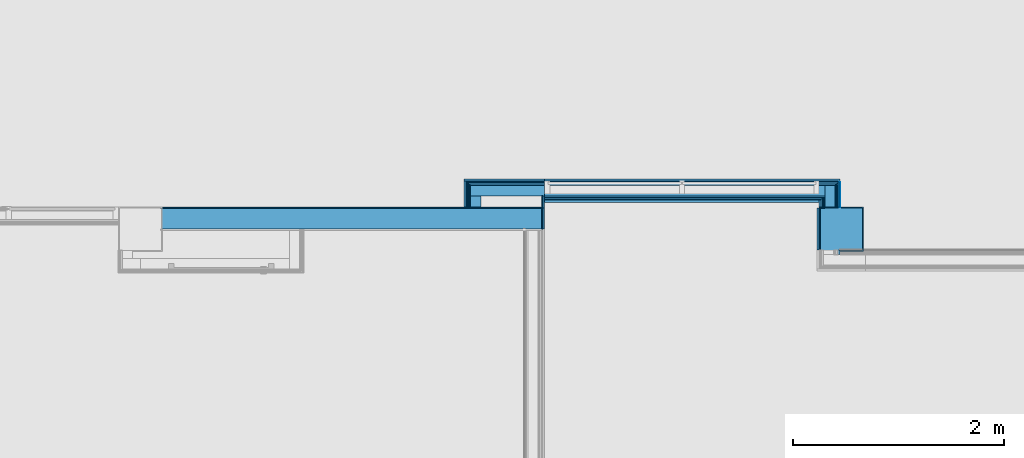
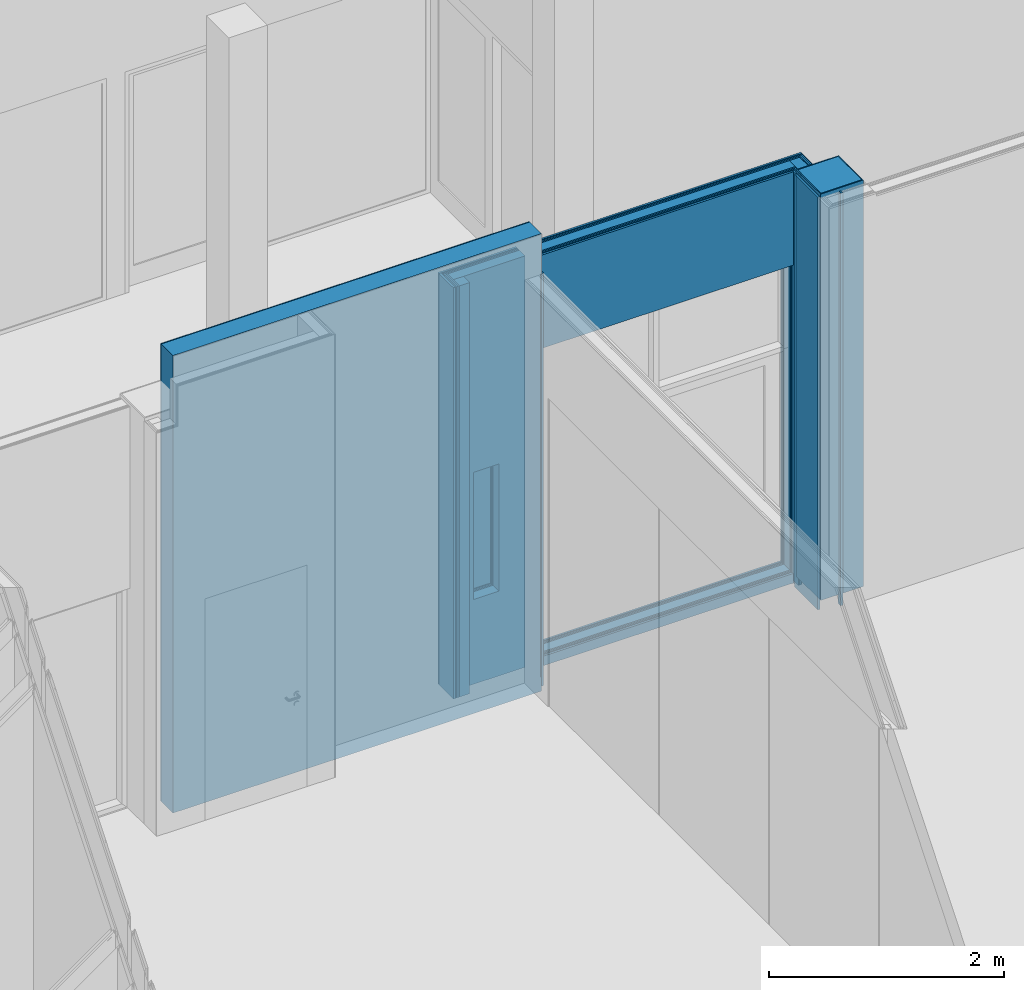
# One storey, part 211 of 260: 37 building element parts, 2 openings, 9 elements without a shape of their own.
"""IFC2X3 building model written with IfcOpenShell, lengths in millimetres."""

from ifc_helpers import new_model, entity, si_unit, converted_unit, derived_unit, money_unit, direction, frame, origin_with_axes, place, context, subcontext, project, spatial, faceted_brep, material, type_object, element, aggregate, save


model = new_model("IFC2X3")

# Units and contexts
model_context = context("Model", 3, precision=0.01, world=origin_with_axes(), true_north=direction((0.0, 1.0)))
body_context = subcontext(model_context, "Body", "Model", "MODEL_VIEW")
ifc_project = project(units=[si_unit("LENGTHUNIT", "METRE", prefix="MILLI"), si_unit("AREAUNIT", "SQUARE_METRE"), si_unit("VOLUMEUNIT", "CUBIC_METRE"), converted_unit("PLANEANGLEUNIT", "DEGREE", entity("IfcPlaneAngleMeasure", 0.0174532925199), si_unit("PLANEANGLEUNIT", "RADIAN"), dimensions=[0, 0, 0, 0, 0, 0, 0]), money_unit("EUR"), converted_unit("TIMEUNIT", "Year", entity("IfcTimeMeasure", 31556926.0), si_unit("TIMEUNIT", "SECOND"), dimensions=[0, 0, 1, 0, 0, 0, 0]), si_unit("MASSUNIT", "GRAM", prefix="KILO"), si_unit("THERMODYNAMICTEMPERATUREUNIT", "DEGREE_CELSIUS"), si_unit("LUMINOUSINTENSITYUNIT", "LUMEN"), si_unit("ENERGYUNIT", "JOULE", prefix="MEGA"), derived_unit("THERMALCONDUCTANCEUNIT", [(si_unit("POWERUNIT", "WATT"), 1), (si_unit("LENGTHUNIT", "METRE"), -1), (si_unit("THERMODYNAMICTEMPERATUREUNIT", "KELVIN"), -1)]), derived_unit("SPECIFICHEATCAPACITYUNIT", [(si_unit("ENERGYUNIT", "JOULE"), 1), (si_unit("MASSUNIT", "GRAM", prefix="KILO"), -1), (si_unit("THERMODYNAMICTEMPERATUREUNIT", "KELVIN"), -1)]), derived_unit("MASSDENSITYUNIT", [(si_unit("MASSUNIT", "GRAM", prefix="KILO"), 1), (si_unit("VOLUMEUNIT", "CUBIC_METRE"), -1)])], contexts=[model_context])

# Site, building, storey
site_placement = place(None, origin_with_axes())
site = spatial("IfcSite", under=ifc_project, at=site_placement, Name="Kolde pst 67a", CompositionType="ELEMENT")
building_placement = place(site_placement, origin_with_axes())
building = spatial("IfcBuilding", under=site, at=building_placement, Name="Riigigümnaasium", CompositionType="ELEMENT")
storey_placement = place(building_placement, origin_with_axes())
storey = spatial("IfcBuildingStorey", under=building, at=storey_placement, Name="1. korrus", CompositionType="ELEMENT", Elevation=0.0)

# Wall, building element parts
wall_type_1 = type_object("IfcWallType", Name="SS-RB-20/1_+2 krohv 55 dB 220", PredefinedType="NOTDEFINED")
wall_1_placement = place(storey_placement, frame((73759.99953, 24240.000066, -150.0), z_axis=(0.0, 0.0, 1.0), x_axis=(-1.0, 4.30399456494e-10, 0.0)))
wall_1 = element("IfcWall", 1, at=wall_1_placement, inside=storey, type_object=wall_type_1, Name="Sisesein")
ifc_material_1 = material(Name="_KANDETARIND - monteeritav raudbetoon vastavalt EK osale")
building_element_part_1_placement = place(wall_1_placement, origin_with_axes())
building_element_part_1 = element("IfcBuildingElementPart", 2, at=building_element_part_1_placement, material=ifc_material_1, Name="_KANDETARIND - monteeritav raudbetoon vastavalt EK osale", context=body_context, shape_type="Brep", body=[
    faceted_brep([(3620.00024183, -199.999998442, 4750.0), (3620.00024174, 1.55804613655e-06, 4750.0), (0.0, 0.0, 4750.0), (8.607514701e-08, -200.0, 4750.0), (3620.00024183, -199.999998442, 0.0), (3620.00024174, 1.55804613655e-06, 0.0), (0.0, 0.0, 0.0), (8.607514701e-08, -200.0, 0.0)], [[[0, 1, 2, 3]], [[0, 4, 5, 1]], [[1, 5, 6, 2]], [[3, 2, 6, 7]], [[4, 0, 3, 7]], [[5, 4, 7, 6]]]),
])
ifc_material_2 = material(Name="_VIIMISTLUSKIHT - viimistlus vastavalt SA osale")
building_element_part_2_placement = place(wall_1_placement, origin_with_axes())
building_element_part_2 = element("IfcBuildingElementPart", 3, at=building_element_part_2_placement, material=ifc_material_2, Name="_VIIMISTLUSKIHT - viimistlus vastavalt SA osale", context=body_context, shape_type="Brep", body=[
    faceted_brep([(3620.00024183, -209.999998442, 4750.0), (3620.00024183, -199.999998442, 4750.0), (8.607514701e-08, -200.0, 4750.0), (9.03810359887e-08, -210.0, 4750.0), (3620.00024183, -209.999998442, 0.0), (3620.00024183, -199.999998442, 0.0), (8.607514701e-08, -200.0, 0.0), (9.03810359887e-08, -210.0, 0.0)], [[[0, 1, 2, 3]], [[0, 4, 5, 1]], [[1, 5, 6, 2]], [[3, 2, 6, 7]], [[4, 0, 3, 7]], [[5, 4, 7, 6]]]),
])
aggregate(wall_1, [building_element_part_1, building_element_part_2])

# Column, building element parts
column_type = type_object("IfcColumnType", Name="_KANDETARIND - raudbetoon C25/30 vastavalt EK osale 420 x 420", PredefinedType="COLUMN")
column_placement = place(storey_placement, frame((76590.0020631, 24239.9999727, 0.0), z_axis=(0.0, 0.0, 1.0), x_axis=(1.0, 0.0, 0.0)))
column = element("IfcColumn", 4, at=column_placement, inside=storey, type_object=column_type, Name="POST", ObjectType="COLUMN")
ifc_material_3 = material(Name="_VIIMISTLUSKIHT - puit")
building_element_part_3_placement = place(column_placement, origin_with_axes())
building_element_part_3 = element("IfcBuildingElementPart", 5, at=building_element_part_3_placement, material=ifc_material_3, Name="_VIIMISTLUSKIHT - puit", context=body_context, shape_type="Brep", body=[
    faceted_brep([(-210.0, 210.0, 0.0), (-210.0, -210.0, 0.0), (-210.0, -210.0, 4220.0), (-210.0, 210.0, 4220.0), (210.0, 210.0, 0.0), (210.0, -210.0, 0.0), (-199.999997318, -199.999997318, 0.0), (199.999997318, -199.999997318, 0.0), (199.999997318, 199.999997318, 0.0), (-199.999997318, 199.999997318, 0.0), (210.0, -210.0, 4220.0), (210.0, 210.0, 4220.0), (-199.999997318, -199.999997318, 4220.0), (-199.999997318, 199.999997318, 4220.0), (199.999997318, 199.999997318, 4220.0), (199.999997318, -199.999997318, 4220.0)], [[[0, 1, 2, 3]], [[0, 4, 5, 1], [6, 7, 8, 9]], [[1, 5, 10, 2]], [[3, 2, 10, 11], [12, 13, 14, 15]], [[4, 0, 3, 11]], [[5, 4, 11, 10]], [[7, 6, 12, 15]], [[8, 7, 15, 14]], [[9, 8, 14, 13]], [[6, 9, 13, 12]]]),
])
ifc_material_4 = material(Name="_KANDETARIND - raudbetoon C25/30 vastavalt EK osale")
building_element_part_4_placement = place(column_placement, origin_with_axes())
building_element_part_4 = element("IfcBuildingElementPart", 6, at=building_element_part_4_placement, material=ifc_material_4, Name="_KANDETARIND - raudbetoon C25/30 vastavalt EK osale", context=body_context, shape_type="Brep", body=[
    faceted_brep([(-200.0, -200.0, 0.0), (200.0, -200.0, 0.0), (200.0, -200.0, 4220.0), (-200.0, -200.0, 4220.0), (-200.0, 200.0, 0.0), (200.0, 200.0, 0.0), (200.0, 200.0, 4220.0), (-200.0, 200.0, 4220.0)], [[[0, 1, 2, 3]], [[0, 4, 5, 1]], [[1, 5, 6, 2]], [[3, 2, 6, 7]], [[4, 0, 3, 7]], [[5, 4, 7, 6]]]),
])
aggregate(column, [building_element_part_3, building_element_part_4])

# Wall, opening, building element parts
wall_type_2 = type_object("IfcWallType", Name="SS-MK-10/4_šahti sein+dold  160", PredefinedType="NOTDEFINED")
wall_2_placement = place(storey_placement, frame((73015.537689, 24714.9999722, -150.0), z_axis=(0.0, 0.0, 1.0), x_axis=(1.0, 0.0, 0.0)))
wall_2 = element("IfcWall", 7, at=wall_2_placement, inside=storey, type_object=wall_type_2, Name="Sisesein")
opening_1_placement = place(wall_2_placement, frame((-73015.537689, -24714.9999722, 150.0), z_axis=(0.0, 0.0, 1.0), x_axis=(1.0, 0.0, 0.0)))
element("IfcOpeningElement", 8, at=opening_1_placement, cuts=wall_2, Name="Tulekustuti nišš vastavalt SA osale", ObjectType="OPENING", context=body_context, shape_type="Brep", body=[
    faceted_brep([(73272.7689276, 24494.9999676, 780.0), (73272.7689276, 24494.9999676, 2100.0), (73272.7689276, 24694.9999676, 2100.0), (73272.7689276, 24694.9999676, 780.0), (73522.7689276, 24494.9999676, 780.0), (73522.7689276, 24494.9999676, 2100.0), (73522.7689276, 24694.9999676, 2100.0), (73522.7689276, 24694.9999676, 780.0)], [[[0, 1, 2, 3]], [[0, 4, 5, 1]], [[1, 5, 6, 2]], [[3, 2, 6, 7]], [[4, 0, 3, 7]], [[5, 4, 7, 6]]]),
])
ifc_material_5 = material(Name="_VIIMISTLUSKIHT - Dold plaat vastavalt SA osale")
building_element_part_5_placement = place(wall_2_placement, origin_with_axes())
building_element_part_5 = element("IfcBuildingElementPart", 9, at=building_element_part_5_placement, material=ifc_material_5, Name="_VIIMISTLUSKIHT - Dold plaat vastavalt SA osale", context=body_context, shape_type="Brep", body=[
    faceted_brep([(764.461886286, -20.0, 49.9), (764.461886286, 0.0, 49.9), (764.461886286, 0.0, 4320.0), (764.461886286, -20.0, 4320.0), (0.0, 0.0, 49.9), (-1.00332329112e-05, -20.0, 49.9), (0.0, 0.0, 4320.0), (-1.00332329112e-05, -20.0, 4320.0)], [[[0, 1, 2, 3]], [[4, 1, 0, 5]], [[1, 4, 6, 2]], [[3, 2, 6, 7]], [[5, 0, 3, 7]], [[4, 5, 7, 6]]]),
])
ifc_material_6 = material(Name="_KARKASS - eriprofiilkinnitus vastavalt sisemisele plaatviimistlusele")
building_element_part_6_placement = place(wall_2_placement, origin_with_axes())
building_element_part_6 = element("IfcBuildingElementPart", 10, at=building_element_part_6_placement, material=ifc_material_6, Name="_KARKASS - eriprofiilkinnitus vastavalt sisemisele plaatviimistlusele", context=body_context, shape_type="Brep", body=[
    faceted_brep([(764.461886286, -30.0, 49.9), (764.461886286, -20.0, 49.9), (764.461886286, -20.0, 4320.0), (764.461886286, -30.0, 4320.0), (19.9999899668, -20.0, 49.9), (19.9999849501, -30.0, 49.9), (19.9999899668, -20.0, 4320.0), (257.231238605, -20.0000046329, 2250.0), (257.231238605, -20.0000046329, 930.0), (507.231238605, -20.0000046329, 930.0), (507.231238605, -20.0000046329, 2250.0), (19.9999849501, -30.0, 4320.0), (507.231238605, -30.0, 930.0), (257.231238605, -30.0, 930.0), (257.231238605, -30.0, 2250.0), (507.231238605, -30.0, 2250.0)], [[[0, 1, 2, 3]], [[4, 1, 0, 5]], [[1, 4, 6, 2], [7, 8, 9, 10]], [[3, 2, 6, 11]], [[5, 0, 3, 11], [12, 13, 14, 15]], [[4, 5, 11, 6]], [[13, 8, 7, 14]], [[12, 9, 8, 13]], [[15, 10, 9, 12]], [[14, 7, 10, 15]]]),
])
ifc_material_7 = material(Name="_PLAATMATERJAL - tuletõkkekipsplaat, Knauf Red GKF või samaväärne")
building_element_part_7_placement = place(wall_2_placement, origin_with_axes())
building_element_part_7 = element("IfcBuildingElementPart", 11, at=building_element_part_7_placement, material=ifc_material_7, Name="_PLAATMATERJAL - tuletõkkekipsplaat, Knauf Red GKF või samaväärne", context=body_context, shape_type="Brep", body=[
    faceted_brep([(764.461886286, -45.0, 49.9), (764.461886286, -30.0, 49.9), (764.461886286, -30.0, 4320.0), (764.461886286, -45.0, 4320.0), (29.9999849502, -30.0, 49.9), (29.9999774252, -45.0, 49.9), (29.9999849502, -30.0, 4320.0), (257.231238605, -30.0, 2250.0), (257.231238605, -30.0, 930.0), (507.231238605, -30.0, 930.0), (507.231238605, -30.0, 2250.0), (29.9999774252, -45.0, 4320.0), (507.231238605, -45.0, 930.0), (257.231238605, -45.0, 930.0), (257.231238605, -45.0, 2250.0), (507.231238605, -45.0, 2250.0)], [[[0, 1, 2, 3]], [[4, 1, 0, 5]], [[1, 4, 6, 2], [7, 8, 9, 10]], [[3, 2, 6, 11]], [[5, 0, 3, 11], [12, 13, 14, 15]], [[4, 5, 11, 6]], [[13, 8, 7, 14]], [[12, 9, 8, 13]], [[15, 10, 9, 12]], [[14, 7, 10, 15]]]),
])
building_element_part_8_placement = place(wall_2_placement, origin_with_axes())
building_element_part_8 = element("IfcBuildingElementPart", 12, at=building_element_part_8_placement, material=ifc_material_7, Name="_PLAATMATERJAL - tuletõkkekipsplaat, Knauf Red GKF või samaväärne", context=body_context, shape_type="Brep", body=[
    faceted_brep([(764.461886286, -60.0, 49.9), (764.461886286, -45.0, 49.9), (764.461886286, -45.0, 4320.0), (764.461886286, -60.0, 4320.0), (44.9999774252, -45.0, 49.9), (44.9999699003, -60.0, 49.9), (44.9999774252, -45.0, 4320.0), (257.231238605, -45.0, 2250.0), (257.231238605, -45.0, 930.0), (507.231238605, -45.0, 930.0), (507.231238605, -45.0, 2250.0), (44.9999699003, -60.0, 4320.0), (507.231238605, -60.0, 930.0), (257.231238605, -60.0, 930.0), (257.231238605, -60.0, 2250.0), (507.231238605, -60.0, 2250.0)], [[[0, 1, 2, 3]], [[4, 1, 0, 5]], [[1, 4, 6, 2], [7, 8, 9, 10]], [[3, 2, 6, 11]], [[5, 0, 3, 11], [12, 13, 14, 15]], [[4, 5, 11, 6]], [[13, 8, 7, 14]], [[12, 9, 8, 13]], [[15, 10, 9, 12]], [[14, 7, 10, 15]]]),
])
ifc_material_8 = material(Name="_KARKASS - metallkarkass CW 100/50/06 ja UW 100/40/06, samm 600, vahel mineraalvill, helineeldetegur αw = 1.0,  ISOVER ACOUSTIC 100mm või samaväärne")
building_element_part_9_placement = place(wall_2_placement, origin_with_axes())
building_element_part_9 = element("IfcBuildingElementPart", 13, at=building_element_part_9_placement, material=ifc_material_8, Name="_KARKASS - metallkarkass CW 100/50/06 ja UW 100/40/06, samm 600, vahel mineraalvill, helineeldetegur αw = 1.0,  ISOVER ACOUSTIC 100mm või samaväärne", context=body_context, shape_type="Brep", body=[
    faceted_brep([(764.461886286, -160.0, 49.9), (764.461886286, -60.0, 49.9), (764.461886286, -60.0, 4320.0), (764.461886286, -160.0, 4320.0), (59.9999699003, -60.0, 49.9), (59.9999197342, -160.0, 49.9), (59.9999699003, -60.0, 4320.0), (257.231238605, -60.0, 2250.0), (257.231238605, -60.0, 930.0), (507.231238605, -60.0, 930.0), (507.231238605, -60.0, 2250.0), (59.9999197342, -160.0, 4320.0), (507.231238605, -160.0, 930.0), (257.231238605, -160.0, 930.0), (257.231238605, -160.0, 2250.0), (507.231238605, -160.0, 2250.0)], [[[0, 1, 2, 3]], [[4, 1, 0, 5]], [[1, 4, 6, 2], [7, 8, 9, 10]], [[3, 2, 6, 11]], [[5, 0, 3, 11], [12, 13, 14, 15]], [[4, 5, 11, 6]], [[13, 8, 7, 14]], [[12, 9, 8, 13]], [[15, 10, 9, 12]], [[14, 7, 10, 15]]]),
])
aggregate(wall_2, [building_element_part_5, building_element_part_6, building_element_part_7, building_element_part_8, building_element_part_9])

# Wall, building element parts
wall_type_3 = type_object("IfcWallType", Name="SS-PK-10/8_vill100+dold+vineer-värv 200", PredefinedType="NOTDEFINED")
wall_3_placement = place(storey_placement, frame((76580.0026709, 24494.9999722, -150.0), z_axis=(0.0, 0.0, 1.0), x_axis=(0.0, -1.0, 0.0)))
wall_3 = element("IfcWall", 14, at=wall_3_placement, inside=storey, type_object=wall_type_3, Name="Sisesein")
building_element_part_10_placement = place(wall_3_placement, origin_with_axes())
building_element_part_10 = element("IfcBuildingElementPart", 15, at=building_element_part_10_placement, material=ifc_material_2, Name="_VIIMISTLUSKIHT - viimistlus vastavalt SA osale", context=body_context, shape_type="Brep", body=[
    faceted_brep([(44.9999995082, -5.0, 4320.0), (44.9999995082, 0.0, 4320.0), (-190.0, 0.0, 4320.0), (-190.0, -5.0, 4320.0), (44.9999995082, 0.0, 150.0), (44.9999995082, -5.0, 150.0), (-190.0, 0.0, 150.0), (-190.0, -5.0, 150.0)], [[[0, 1, 2, 3]], [[4, 1, 0, 5]], [[1, 4, 6, 2]], [[2, 6, 7, 3]], [[5, 0, 3, 7]], [[4, 5, 7, 6]]]),
])
building_element_part_11_placement = place(wall_3_placement, origin_with_axes())
building_element_part_11 = element("IfcBuildingElementPart", 16, at=building_element_part_11_placement, material=ifc_material_7, Name="_PLAATMATERJAL - tuletõkkekipsplaat, Knauf Red GKF või samaväärne", context=body_context, shape_type="Brep", body=[
    faceted_brep([(44.9999995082, -20.0, 4320.0), (44.9999995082, -5.0, 4320.0), (-190.0, -5.0, 4320.0), (-190.0, -20.0, 4320.0), (44.9999995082, -5.0, 150.0), (44.9999995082, -20.0, 150.0), (-190.0, -5.0, 150.0), (-190.0, -20.0, 150.0)], [[[0, 1, 2, 3]], [[4, 1, 0, 5]], [[1, 4, 6, 2]], [[2, 6, 7, 3]], [[5, 0, 3, 7]], [[4, 5, 7, 6]]]),
])
building_element_part_12_placement = place(wall_3_placement, origin_with_axes())
building_element_part_12 = element("IfcBuildingElementPart", 17, at=building_element_part_12_placement, material=ifc_material_7, Name="_PLAATMATERJAL - tuletõkkekipsplaat, Knauf Red GKF või samaväärne", context=body_context, shape_type="Brep", body=[
    faceted_brep([(44.9999995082, -35.0, 4320.0), (44.9999995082, -20.0, 4320.0), (-175.0, -20.0, 4320.0), (-175.0, -35.0, 4320.0), (44.9999995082, -20.0, 150.0), (44.9999995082, -35.0, 150.0), (-175.0, -20.0, 150.0), (-175.0, -35.0, 150.0)], [[[0, 1, 2, 3]], [[4, 1, 0, 5]], [[1, 4, 6, 2]], [[2, 6, 7, 3]], [[5, 0, 3, 7]], [[4, 5, 7, 6]]]),
])
ifc_material_9 = material(Name="_PLAATMATERJAL - OSB3 plaat")
building_element_part_13_placement = place(wall_3_placement, origin_with_axes())
building_element_part_13 = element("IfcBuildingElementPart", 18, at=building_element_part_13_placement, material=ifc_material_9, Name="_PLAATMATERJAL - OSB3 plaat", context=body_context, shape_type="Brep", body=[
    faceted_brep([(44.9999995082, -45.0, 4320.0), (44.9999995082, -35.0, 4320.0), (-160.0, -35.0, 4320.0), (-160.0, -45.0, 4320.0), (44.9999995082, -35.0, 150.0), (44.9999995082, -45.0, 150.0), (-160.0, -35.0, 150.0), (-160.0, -45.0, 150.0)], [[[0, 1, 2, 3]], [[4, 1, 0, 5]], [[1, 4, 6, 2]], [[2, 6, 7, 3]], [[5, 0, 3, 7]], [[4, 5, 7, 6]]]),
])
ifc_material_10 = material(Name="_KARKASS - puitpruss 100x50mm vertikaalne, samm 600mm, vahel mineraalvill, helineeldetegur αw = 1.0, ISOVER ACOUSTIC 100mm või samaväärne")
building_element_part_14_placement = place(wall_3_placement, origin_with_axes())
building_element_part_14 = element("IfcBuildingElementPart", 19, at=building_element_part_14_placement, material=ifc_material_10, Name="_KARKASS - puitpruss 100x50mm vertikaalne, samm 600mm, vahel mineraalvill, helineeldetegur αw = 1.0, ISOVER ACOUSTIC 100mm või samaväärne", context=body_context, shape_type="Brep", body=[
    faceted_brep([(44.9999995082, -145.0, 4320.0), (44.9999995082, -45.0, 4320.0), (-160.0, -45.0, 4320.0), (-160.0, -145.0, 4320.0), (44.9999995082, -45.0, 150.0), (44.9999995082, -145.0, 150.0), (55.0000021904, -45.0, 150.0), (54.9999995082, -45.0, 49.9), (-160.0, -45.0, 49.9), (-160.0, -145.0, 49.9), (54.9999995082, -145.0, 49.9), (55.0000021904, -145.0, 150.0)], [[[0, 1, 2, 3]], [[4, 1, 0, 5]], [[4, 6, 7, 8, 2, 1]], [[2, 8, 9, 3]], [[5, 0, 3, 9, 10, 11]], [[6, 4, 5, 11]], [[6, 11, 10, 7]], [[10, 9, 8, 7]]]),
])
building_element_part_15_placement = place(wall_3_placement, origin_with_axes())
building_element_part_15 = element("IfcBuildingElementPart", 20, at=building_element_part_15_placement, material=ifc_material_9, Name="_PLAATMATERJAL - OSB3 plaat", context=body_context, shape_type="Brep", body=[
    faceted_brep([(44.9999995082, -155.0, 4320.0), (44.9999995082, -145.0, 4320.0), (-45.0, -145.0, 4320.0), (-45.0, -155.0, 4320.0), (44.9999995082, -145.0, 150.0), (44.9999995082, -155.0, 150.0), (55.0000021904, -145.0, 150.0), (54.9999995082, -145.0, 49.9), (-45.0, -145.0, 49.9), (-45.0, -155.0, 49.9), (54.9999995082, -155.0, 49.9), (55.0000021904, -155.0, 150.0)], [[[0, 1, 2, 3]], [[4, 1, 0, 5]], [[4, 6, 7, 8, 2, 1]], [[2, 8, 9, 3]], [[5, 0, 3, 9, 10, 11]], [[6, 4, 5, 11]], [[6, 11, 10, 7]], [[10, 9, 8, 7]]]),
])
building_element_part_16_placement = place(wall_3_placement, origin_with_axes())
building_element_part_16 = element("IfcBuildingElementPart", 21, at=building_element_part_16_placement, material=ifc_material_7, Name="_PLAATMATERJAL - tuletõkkekipsplaat, Knauf Red GKF või samaväärne", context=body_context, shape_type="Brep", body=[
    faceted_brep([(44.9999995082, -170.0, 4320.0), (44.9999995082, -155.0, 4320.0), (-45.0, -155.0, 4320.0), (-45.0, -170.0, 4320.0), (44.9999995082, -155.0, 150.0), (44.9999995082, -170.0, 150.0), (55.0000021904, -155.0, 150.0), (54.9999995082, -155.0, 49.9), (-45.0, -155.0, 49.9), (-45.0, -170.0, 49.9), (54.9999995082, -170.0, 49.9), (55.0000021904, -170.0, 150.0)], [[[0, 1, 2, 3]], [[4, 1, 0, 5]], [[4, 6, 7, 8, 2, 1]], [[2, 8, 9, 3]], [[5, 0, 3, 9, 10, 11]], [[6, 4, 5, 11]], [[6, 11, 10, 7]], [[10, 9, 8, 7]]]),
])
building_element_part_17_placement = place(wall_3_placement, origin_with_axes())
building_element_part_17 = element("IfcBuildingElementPart", 22, at=building_element_part_17_placement, material=ifc_material_6, Name="_KARKASS - eriprofiilkinnitus vastavalt sisemisele plaatviimistlusele", context=body_context, shape_type="Brep", body=[
    faceted_brep([(44.9999995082, -180.0, 4320.0), (44.9999995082, -170.0, 4320.0), (-30.0, -170.0, 4320.0), (-30.0, -180.0, 4320.0), (44.9999995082, -170.0, 150.0), (44.9999995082, -180.0, 150.0), (55.0000021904, -170.0, 150.0), (54.9999995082, -170.0, 49.9), (-30.0, -170.0, 49.9), (-30.0, -180.0, 49.9), (54.9999995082, -180.0, 49.9), (55.0000021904, -180.0, 150.0)], [[[0, 1, 2, 3]], [[4, 1, 0, 5]], [[4, 6, 7, 8, 2, 1]], [[2, 8, 9, 3]], [[5, 0, 3, 9, 10, 11]], [[6, 4, 5, 11]], [[6, 11, 10, 7]], [[10, 9, 8, 7]]]),
])
building_element_part_18_placement = place(wall_3_placement, origin_with_axes())
building_element_part_18 = element("IfcBuildingElementPart", 23, at=building_element_part_18_placement, material=ifc_material_5, Name="_VIIMISTLUSKIHT - Dold plaat vastavalt SA osale", context=body_context, shape_type="Brep", body=[
    faceted_brep([(44.9999995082, -200.000607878, 4320.0), (44.9999995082, -180.0, 4320.0), (-20.0, -180.0, 4320.0), (-20.0, -200.0, 4320.0), (44.9999995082, -180.0, 150.0), (44.9999995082, -200.000607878, 150.0), (55.0000021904, -180.0, 150.0), (54.9999995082, -180.0, 49.9), (-20.0, -180.0, 49.9), (-20.0, -200.0, 49.9), (54.9999995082, -200.0, 49.9), (54.9999995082, -200.000607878, 150.0), (55.0000021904, -190.000605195, 150.0)], [[[0, 1, 2, 3]], [[4, 1, 0, 5]], [[4, 6, 7, 8, 2, 1]], [[2, 8, 9, 3]], [[5, 0, 3, 9, 10, 11]], [[6, 4, 5, 11, 12]], [[12, 11, 10, 7, 6]], [[10, 9, 8, 7]]]),
])
aggregate(wall_3, [building_element_part_10, building_element_part_11, building_element_part_12, building_element_part_13, building_element_part_14, building_element_part_15, building_element_part_16, building_element_part_17, building_element_part_18])

wall_type_4 = type_object("IfcWallType", Name="SS-MK-1/1_1x dold pinnakiht 30", PredefinedType="NOTDEFINED")
wall_4_placement = place(storey_placement, frame((76390.0020631, 24439.9999727, -150.0), z_axis=(0.0, 0.0, 1.0), x_axis=(0.0, -1.0, 0.0)))
wall_4 = element("IfcWall", 24, at=wall_4_placement, inside=storey, type_object=wall_type_4, Name="Sisesein")
building_element_part_19_placement = place(wall_4_placement, origin_with_axes())
building_element_part_19 = element("IfcBuildingElementPart", 25, at=building_element_part_19_placement, material=ifc_material_6, Name="_KARKASS - eriprofiilkinnitus vastavalt sisemisele plaatviimistlusele", context=body_context, shape_type="Brep", body=[
    faceted_brep([(394.901860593, 0.0, 150.0), (-7.10037184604e-06, 0.0, 150.0), (-0.00020520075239, 0.0, 4335.0), (394.901860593, 0.0, 4335.0), (-7.10037184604e-06, -10.0, 150.0), (394.901860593, -10.0, 150.0), (-0.00020520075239, -10.0, 4335.0), (394.901860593, -10.0, 4335.0)], [[[0, 1, 2, 3]], [[4, 1, 0, 5]], [[1, 4, 6, 2]], [[3, 2, 6, 7]], [[5, 0, 3, 7]], [[4, 5, 7, 6]]]),
])
building_element_part_20_placement = place(wall_4_placement, origin_with_axes())
building_element_part_20 = element("IfcBuildingElementPart", 26, at=building_element_part_20_placement, material=ifc_material_5, Name="_VIIMISTLUSKIHT - Dold plaat vastavalt SA osale", context=body_context, shape_type="Brep", body=[
    faceted_brep([(394.901860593, -10.0, 49.9), (-2.36205721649e-06, -10.0, 49.9), (-0.00020520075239, -10.0, 4335.0), (394.901860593, -10.0, 4335.0), (-2.36205721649e-06, -30.0, 49.9), (394.901860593, -30.0, 49.9), (-0.00020520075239, -30.0, 4335.0), (394.901860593, -30.0, 4335.0)], [[[0, 1, 2, 3]], [[4, 1, 0, 5]], [[1, 4, 6, 2]], [[3, 2, 6, 7]], [[5, 0, 3, 7]], [[4, 5, 7, 6]]]),
])
aggregate(wall_4, [building_element_part_19, building_element_part_20])

wall_5_placement = place(storey_placement, frame((73749.9995791, 24555.0981117, -150.0), z_axis=(0.0, 0.0, 1.0), x_axis=(-1.55804791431e-07, -1.0, 0.0)))
wall_5 = element("IfcWall", 27, at=wall_5_placement, inside=storey, type_object=wall_type_4, Name="Sisesein")
building_element_part_21_placement = place(wall_5_placement, origin_with_axes())
building_element_part_21 = element("IfcBuildingElementPart", 28, at=building_element_part_21_placement, material=ifc_material_5, Name="_VIIMISTLUSKIHT - Dold plaat vastavalt SA osale", context=body_context, shape_type="Brep", body=[
    faceted_brep([(315.098044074, 30.0, 49.9), (0.0, 30.0, 49.9), (0.0, 30.0, 4320.0), (115.098134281, 30.0, 4320.0), (115.09792908, 30.0, 4335.0), (315.098044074, 30.0, 4335.0), (0.0, 10.0, 49.9), (315.098044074, 10.0, 49.9), (0.0, 10.0, 4320.0), (115.098137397, 10.0, 4320.0), (115.097932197, 9.99999999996, 4335.0), (315.098044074, 10.0, 4335.0)], [[[0, 1, 2, 3, 4, 5]], [[6, 1, 0, 7]], [[1, 6, 8, 2]], [[3, 2, 8, 9]], [[10, 4, 3, 9]], [[5, 4, 10, 11]], [[7, 0, 5, 11]], [[6, 7, 11, 10, 9, 8]]]),
])
building_element_part_22_placement = place(wall_5_placement, origin_with_axes())
building_element_part_22 = element("IfcBuildingElementPart", 29, at=building_element_part_22_placement, material=ifc_material_6, Name="_KARKASS - eriprofiilkinnitus vastavalt sisemisele plaatviimistlusele", context=body_context, shape_type="Brep", body=[
    faceted_brep([(315.098044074, 10.0, 150.0), (0.0, 10.0, 150.0), (0.0, 10.0, 4320.0), (115.098137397, 10.0, 4320.0), (115.097932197, 9.99999999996, 4335.0), (315.098044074, 10.0, 4335.0), (0.0, 0.0, 150.0), (315.098044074, 0.0, 150.0), (0.0, 0.0, 4320.0), (115.098138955, 0.0, 4320.0), (115.097933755, 0.0, 4335.0), (315.098044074, 0.0, 4335.0)], [[[0, 1, 2, 3, 4, 5]], [[6, 1, 0, 7]], [[1, 6, 8, 2]], [[3, 2, 8, 9]], [[10, 4, 3, 9]], [[5, 4, 10, 11]], [[7, 0, 5, 11]], [[6, 7, 11, 10, 9, 8]]]),
])
aggregate(wall_5, [building_element_part_21, building_element_part_22])

wall_6_placement = place(storey_placement, frame((73015.537689, 24714.9999722, -150.0), z_axis=(0.0, 0.0, 1.0), x_axis=(-5.01661475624e-07, -1.0, 0.0)))
wall_6 = element("IfcWall", 30, at=wall_6_placement, inside=storey, type_object=wall_type_2, Name="Sisesein")
building_element_part_23_placement = place(wall_6_placement, origin_with_axes())
building_element_part_23 = element("IfcBuildingElementPart", 31, at=building_element_part_23_placement, material=ifc_material_8, Name="_KARKASS - metallkarkass CW 100/50/06 ja UW 100/40/06, samm 600, vahel mineraalvill, helineeldetegur αw = 1.0,  ISOVER ACOUSTIC 100mm või samaväärne", context=body_context, shape_type="Brep", body=[
    faceted_brep([(264.999820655, 160.0, 49.9), (159.999919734, 160.0, 49.9), (159.999919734, 160.0, 4320.0), (264.999820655, 160.0, 4320.0), (159.9999699, 60.0, 49.9), (264.999820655, 60.0, 49.9), (159.9999699, 60.0, 4320.0), (264.999820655, 60.0, 4320.0)], [[[0, 1, 2, 3]], [[4, 1, 0, 5]], [[1, 4, 6, 2]], [[3, 2, 6, 7]], [[5, 0, 3, 7]], [[4, 5, 7, 6]]]),
])
building_element_part_24_placement = place(wall_6_placement, origin_with_axes())
building_element_part_24 = element("IfcBuildingElementPart", 32, at=building_element_part_24_placement, material=ifc_material_7, Name="_PLAATMATERJAL - tuletõkkekipsplaat, Knauf Red GKF või samaväärne", context=body_context, shape_type="Brep", body=[
    faceted_brep([(264.999820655, 60.0, 49.9), (59.9999699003, 60.0, 49.9), (59.9999699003, 60.0, 4320.0), (264.999820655, 60.0, 4320.0), (59.9999774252, 45.0, 49.9), (264.999820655, 45.0, 49.9), (59.9999774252, 45.0, 4320.0), (264.999820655, 45.0, 4320.0)], [[[0, 1, 2, 3]], [[4, 1, 0, 5]], [[1, 4, 6, 2]], [[3, 2, 6, 7]], [[5, 0, 3, 7]], [[4, 5, 7, 6]]]),
])
building_element_part_25_placement = place(wall_6_placement, origin_with_axes())
building_element_part_25 = element("IfcBuildingElementPart", 33, at=building_element_part_25_placement, material=ifc_material_7, Name="_PLAATMATERJAL - tuletõkkekipsplaat, Knauf Red GKF või samaväärne", context=body_context, shape_type="Brep", body=[
    faceted_brep([(264.999820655, 45.0, 49.9), (44.9999774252, 45.0, 49.9), (44.9999774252, 45.0, 4320.0), (264.999820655, 45.0, 4320.0), (44.9999849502, 30.0, 49.9), (264.999820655, 30.0, 49.9), (44.9999849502, 30.0, 4320.0), (264.999820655, 30.0, 4320.0)], [[[0, 1, 2, 3]], [[4, 1, 0, 5]], [[1, 4, 6, 2]], [[3, 2, 6, 7]], [[5, 0, 3, 7]], [[4, 5, 7, 6]]]),
])
building_element_part_26_placement = place(wall_6_placement, origin_with_axes())
building_element_part_26 = element("IfcBuildingElementPart", 34, at=building_element_part_26_placement, material=ifc_material_6, Name="_KARKASS - eriprofiilkinnitus vastavalt sisemisele plaatviimistlusele", context=body_context, shape_type="Brep", body=[
    faceted_brep([(264.999820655, 30.0, 49.9), (29.9999849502, 30.0, 49.9), (29.9999849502, 30.0, 4320.0), (264.999820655, 30.0, 4320.0), (29.9999899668, 20.0, 49.9), (264.999820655, 20.0, 49.9), (29.9999899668, 20.0, 4320.0), (264.999820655, 20.0, 4320.0)], [[[0, 1, 2, 3]], [[4, 1, 0, 5]], [[1, 4, 6, 2]], [[3, 2, 6, 7]], [[5, 0, 3, 7]], [[4, 5, 7, 6]]]),
])
building_element_part_27_placement = place(wall_6_placement, origin_with_axes())
building_element_part_27 = element("IfcBuildingElementPart", 35, at=building_element_part_27_placement, material=ifc_material_5, Name="_VIIMISTLUSKIHT - Dold plaat vastavalt SA osale", context=body_context, shape_type="Brep", body=[
    faceted_brep([(264.999820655, 20.0, 49.9), (19.9999899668, 20.0, 49.9), (19.9999899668, 20.0, 4320.0), (264.999820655, 20.0, 4320.0), (20.0, 0.0, 49.9), (264.999820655, 0.0, 49.9), (20.0, 0.0, 4320.0), (264.999820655, 0.0, 4320.0)], [[[0, 1, 2, 3]], [[4, 1, 0, 5]], [[1, 4, 6, 2]], [[3, 2, 6, 7]], [[5, 0, 3, 7]], [[4, 5, 7, 6]]]),
])
aggregate(wall_6, [building_element_part_23, building_element_part_24, building_element_part_25, building_element_part_26, building_element_part_27])

# Wall, opening, building element parts
wall_type_5 = type_object("IfcWallType", Name="SS-PK-10/1_vill100+2dold 220", PredefinedType="NOTDEFINED")
wall_7_placement = place(storey_placement, frame((73779.9995752, 24494.9999722, -150.0), z_axis=(0.0, 0.0, 1.0), x_axis=(1.0, 0.0, 0.0)))
wall_7 = element("IfcWall", 36, at=wall_7_placement, inside=storey, type_object=wall_type_5, Name="Sisesein")
opening_2_placement = place(wall_7_placement, frame((1296.63410301, 0.0, 150.0), z_axis=(0.0, 0.0, 1.0), x_axis=(1.0, 0.0, 0.0)))
element("IfcOpeningElement", 37, at=opening_2_placement, cuts=wall_7, Name="Ukseava", context=body_context, shape_type="Brep", body=[
    faceted_brep([(1303.3683848, 440.0, 0.0), (1303.3683848, 440.0, 3200.0), (1303.3683848, -220.0, 3200.0), (1303.3683848, -220.0, 0.0), (-1303.3683848, 440.0, 0.0), (-1303.3683848, 440.0, 3200.0), (-1303.3683848, -220.0, 3200.0), (-1303.3683848, -220.0, 0.0)], [[[0, 1, 2, 3]], [[0, 4, 5, 1]], [[1, 5, 6, 2]], [[3, 2, 6, 7]], [[4, 0, 3, 7]], [[5, 4, 7, 6]]]),
])
building_element_part_28_placement = place(wall_7_placement, origin_with_axes())
building_element_part_28 = element("IfcBuildingElementPart", 38, at=building_element_part_28_placement, material=ifc_material_5, Name="_VIIMISTLUSKIHT - Dold plaat vastavalt SA osale", context=body_context, shape_type="Brep", body=[
    faceted_brep([(0.0, 220.0, 150.0), (2600.00248781, 220.0, 150.0), (2600.00248781, 220.0, 3350.0), (0.0, 220.0, 3350.0), (0.0, 220.0, 4320.0), (2800.00309569, 220.0, 4320.0), (2800.00309569, 220.0, 49.9), (0.0, 220.0, 49.9), (0.0, 200.0, 150.0), (2600.00248781, 200.0, 150.0), (2600.00248781, 200.0, 3350.0), (0.0, 200.0, 3350.0), (0.0, 200.0, 4320.0), (2800.00309569, 200.0, 4320.0), (2800.00309569, 200.0, 49.9), (0.0, 200.0, 49.9)], [[[0, 1, 2, 3, 4, 5, 6, 7]], [[1, 0, 8, 9]], [[2, 1, 9, 10]], [[3, 2, 10, 11]], [[3, 11, 12, 4]], [[5, 4, 12, 13]], [[6, 5, 13, 14]], [[6, 14, 15, 7]], [[8, 0, 7, 15]], [[9, 8, 15, 14, 13, 12, 11, 10]]]),
])
building_element_part_29_placement = place(wall_7_placement, origin_with_axes())
building_element_part_29 = element("IfcBuildingElementPart", 39, at=building_element_part_29_placement, material=ifc_material_6, Name="_KARKASS - eriprofiilkinnitus vastavalt sisemisele plaatviimistlusele", context=body_context, shape_type="Brep", body=[
    faceted_brep([(0.0, 200.0, 150.0), (2600.00248781, 200.0, 150.0), (2600.00248781, 200.0, 3350.0), (0.0, 200.0, 3350.0), (0.0, 200.0, 4320.0), (2800.00309569, 200.0, 4320.0), (2800.00309569, 200.0, 49.9), (0.0, 200.0, 49.9), (0.0, 190.0, 150.0), (2600.00248781, 190.0, 150.0), (2600.00248781, 190.0, 3350.0), (0.0, 190.0, 3350.0), (0.0, 190.0, 4320.0), (2800.00309569, 190.0, 4320.0), (2800.00309569, 190.0, 49.9), (0.0, 190.0, 49.9)], [[[0, 1, 2, 3, 4, 5, 6, 7]], [[1, 0, 8, 9]], [[2, 1, 9, 10]], [[3, 2, 10, 11]], [[3, 11, 12, 4]], [[5, 4, 12, 13]], [[6, 5, 13, 14]], [[6, 14, 15, 7]], [[8, 0, 7, 15]], [[9, 8, 15, 14, 13, 12, 11, 10]]]),
])
building_element_part_30_placement = place(wall_7_placement, origin_with_axes())
building_element_part_30 = element("IfcBuildingElementPart", 40, at=building_element_part_30_placement, material=ifc_material_7, Name="_PLAATMATERJAL - tuletõkkekipsplaat, Knauf Red GKF või samaväärne", context=body_context, shape_type="Brep", body=[
    faceted_brep([(0.0, 190.0, 150.0), (2600.00248781, 190.0, 150.0), (2600.00248781, 190.0, 3350.0), (0.0, 190.0, 3350.0), (0.0, 190.0, 4320.0), (2780.00309569, 190.0, 4320.0), (2780.00309569, 190.0, 49.9), (0.0, 190.0, 49.9), (0.0, 175.0, 150.0), (2600.00248781, 175.0, 150.0), (2600.00248781, 175.0, 3350.0), (0.0, 175.0, 3350.0), (0.0, 175.0, 4320.0), (2780.00309569, 175.0, 4320.0), (2780.00309569, 175.0, 49.9), (0.0, 175.0, 49.9)], [[[0, 1, 2, 3, 4, 5, 6, 7]], [[1, 0, 8, 9]], [[2, 1, 9, 10]], [[3, 2, 10, 11]], [[3, 11, 12, 4]], [[5, 4, 12, 13]], [[6, 5, 13, 14]], [[6, 14, 15, 7]], [[8, 0, 7, 15]], [[9, 8, 15, 14, 13, 12, 11, 10]]]),
])
building_element_part_31_placement = place(wall_7_placement, origin_with_axes())
building_element_part_31 = element("IfcBuildingElementPart", 41, at=building_element_part_31_placement, material=ifc_material_7, Name="_PLAATMATERJAL - tuletõkkekipsplaat, Knauf Red GKF või samaväärne", context=body_context, shape_type="Brep", body=[
    faceted_brep([(0.0, 175.0, 150.0), (2600.00248781, 175.0, 150.0), (2600.00248781, 175.0, 3350.0), (0.0, 175.0, 3350.0), (0.0, 175.0, 4320.0), (2765.00309569, 175.0, 4320.0), (2765.00309569, 175.0, 49.9), (0.0, 175.0, 49.9), (0.0, 160.0, 150.0), (2600.00248781, 160.0, 150.0), (2600.00248781, 160.0, 3350.0), (0.0, 160.0, 3350.0), (0.0, 160.0, 4320.0), (2765.00309569, 160.0, 4320.0), (2765.00309569, 160.0, 49.9), (0.0, 160.0, 49.9)], [[[0, 1, 2, 3, 4, 5, 6, 7]], [[1, 0, 8, 9]], [[2, 1, 9, 10]], [[3, 2, 10, 11]], [[3, 11, 12, 4]], [[5, 4, 12, 13]], [[6, 5, 13, 14]], [[6, 14, 15, 7]], [[8, 0, 7, 15]], [[9, 8, 15, 14, 13, 12, 11, 10]]]),
])
building_element_part_32_placement = place(wall_7_placement, origin_with_axes())
building_element_part_32 = element("IfcBuildingElementPart", 42, at=building_element_part_32_placement, material=ifc_material_10, Name="_KARKASS - puitpruss 100x50mm vertikaalne, samm 600mm, vahel mineraalvill, helineeldetegur αw = 1.0, ISOVER ACOUSTIC 100mm või samaväärne", context=body_context, shape_type="Brep", body=[
    faceted_brep([(0.0, 160.0, 150.0), (2600.00248781, 160.0, 150.0), (2600.00248781, 160.0, 3350.0), (0.0, 160.0, 3350.0), (0.0, 160.0, 4320.0), (2655.00309569, 160.0, 4320.0), (2655.00309569, 160.0, 49.9), (0.0, 160.0, 49.9), (0.0, 60.0, 150.0), (2600.00248781, 60.0, 150.0), (2600.00248781, 60.0, 3350.0), (0.0, 60.0, 3350.0), (0.0, 60.0, 4320.0), (2655.00309569, 60.0, 4320.0), (2655.00309569, 60.0, 49.9), (0.0, 60.0, 49.9)], [[[0, 1, 2, 3, 4, 5, 6, 7]], [[1, 0, 8, 9]], [[2, 1, 9, 10]], [[3, 2, 10, 11]], [[3, 11, 12, 4]], [[5, 4, 12, 13]], [[6, 5, 13, 14]], [[6, 14, 15, 7]], [[8, 0, 7, 15]], [[9, 8, 15, 14, 13, 12, 11, 10]]]),
])
building_element_part_33_placement = place(wall_7_placement, origin_with_axes())
building_element_part_33 = element("IfcBuildingElementPart", 43, at=building_element_part_33_placement, material=ifc_material_7, Name="_PLAATMATERJAL - tuletõkkekipsplaat, Knauf Red GKF või samaväärne", context=body_context, shape_type="Brep", body=[
    faceted_brep([(0.0, 60.0, 150.0), (2600.00248781, 60.0, 150.0), (2600.00248781, 60.0, 3350.0), (0.0, 60.0, 3350.0), (0.0, 60.0, 4320.0), (2655.00309569, 60.0, 4320.0), (2655.00309569, 60.0, 49.9), (0.0, 60.0, 49.9), (0.0, 45.0, 150.0), (2600.00248781, 45.0, 150.0), (2600.00248781, 45.0, 3350.0), (0.0, 45.0, 3350.0), (0.0, 45.0, 4320.0), (2655.00309569, 45.0, 4320.0), (2655.00309569, 45.0, 49.9), (0.0, 45.0, 49.9)], [[[0, 1, 2, 3, 4, 5, 6, 7]], [[1, 0, 8, 9]], [[2, 1, 9, 10]], [[3, 2, 10, 11]], [[3, 11, 12, 4]], [[5, 4, 12, 13]], [[6, 5, 13, 14]], [[6, 14, 15, 7]], [[8, 0, 7, 15]], [[9, 8, 15, 14, 13, 12, 11, 10]]]),
])
building_element_part_34_placement = place(wall_7_placement, origin_with_axes())
building_element_part_34 = element("IfcBuildingElementPart", 44, at=building_element_part_34_placement, material=ifc_material_7, Name="_PLAATMATERJAL - tuletõkkekipsplaat, Knauf Red GKF või samaväärne", context=body_context, shape_type="Brep", body=[
    faceted_brep([(0.0, 45.0, 150.0), (2600.00248781, 45.0, 150.0), (2600.00248781, 45.0, 3350.0), (0.0, 45.0, 3350.0), (0.0, 45.0, 4320.0), (2630.00309569, 45.0, 4320.0), (2630.00309569, 45.0, 49.9), (0.0, 45.0, 49.9), (0.0, 30.0, 150.0), (2600.00248781, 30.0, 150.0), (2600.00248781, 30.0, 3350.0), (0.0, 30.0, 3350.0), (0.0, 30.0, 4320.0), (2630.00309569, 30.0, 4320.0), (2630.00309569, 30.0, 49.9), (0.0, 30.0, 49.9)], [[[0, 1, 2, 3, 4, 5, 6, 7]], [[1, 0, 8, 9]], [[2, 1, 9, 10]], [[3, 2, 10, 11]], [[3, 11, 12, 4]], [[5, 4, 12, 13]], [[6, 5, 13, 14]], [[6, 14, 15, 7]], [[8, 0, 7, 15]], [[9, 8, 15, 14, 13, 12, 11, 10]]]),
])
building_element_part_35_placement = place(wall_7_placement, origin_with_axes())
building_element_part_35 = element("IfcBuildingElementPart", 45, at=building_element_part_35_placement, material=ifc_material_6, Name="_KARKASS - eriprofiilkinnitus vastavalt sisemisele plaatviimistlusele", context=body_context, shape_type="Brep", body=[
    faceted_brep([(0.0, 30.0, 150.0), (2600.00248781, 30.0, 150.0), (2600.00248781, 30.0, 3350.0), (0.0, 30.0, 3350.0), (0.0, 30.0, 4320.0), (2620.00309569, 30.0, 4320.0), (2620.00309569, 30.0, 49.9), (0.0, 30.0, 49.9), (0.0, 20.0, 150.0), (2600.00248781, 20.0, 150.0), (2600.00248781, 20.0, 3350.0), (0.0, 20.0, 3350.0), (0.0, 20.0, 4320.0), (2620.00309569, 20.0, 4320.0), (2620.00309569, 20.0, 49.9), (0.0, 20.0, 49.9)], [[[0, 1, 2, 3, 4, 5, 6, 7]], [[1, 0, 8, 9]], [[2, 1, 9, 10]], [[3, 2, 10, 11]], [[3, 11, 12, 4]], [[5, 4, 12, 13]], [[6, 5, 13, 14]], [[6, 14, 15, 7]], [[8, 0, 7, 15]], [[9, 8, 15, 14, 13, 12, 11, 10]]]),
])
building_element_part_36_placement = place(wall_7_placement, origin_with_axes())
building_element_part_36 = element("IfcBuildingElementPart", 46, at=building_element_part_36_placement, material=ifc_material_5, Name="_VIIMISTLUSKIHT - Dold plaat vastavalt SA osale", context=body_context, shape_type="Brep", body=[
    faceted_brep([(0.0, 20.0, 150.0), (2600.00248781, 20.0, 150.0), (2600.00309569, 20.0, 49.9), (0.0, 20.0, 49.9), (2600.00248781, 0.0, 150.0), (0.0, 0.0, 150.0), (2600.00309569, 0.0, 49.9), (0.0, 0.0, 49.9)], [[[0, 1, 2, 3]], [[4, 1, 0, 5]], [[1, 4, 6, 2]], [[2, 6, 7, 3]], [[5, 0, 3, 7]], [[4, 5, 7, 6]]]),
    faceted_brep([(2600.00248781, 0.0, 3350.0), (2600.00248781, 20.0, 3350.0), (2600.00309569, 20.0, 4320.0), (2600.00309569, 0.0, 4320.0), (0.0, 20.0, 3350.0), (0.0, 0.0, 3350.0), (0.0, 20.0, 4320.0), (0.0, 0.0, 4320.0)], [[[0, 1, 2, 3]], [[4, 1, 0, 5]], [[1, 4, 6, 2]], [[2, 6, 7, 3]], [[5, 0, 3, 7]], [[4, 5, 7, 6]]]),
])
aggregate(wall_7, [building_element_part_28, building_element_part_29, building_element_part_30, building_element_part_31, building_element_part_32, building_element_part_33, building_element_part_34, building_element_part_35, building_element_part_36])

# Wall, building element part
wall_8_placement = place(storey_placement, frame((76360.0020631, 24045.0981121, -150.0), z_axis=(0.0, 0.0, 1.0), x_axis=(0.0, -1.0, 0.0)))
wall_8 = element("IfcWall", 47, at=wall_8_placement, inside=storey, type_object=wall_type_5, Name="Sisesein")
building_element_part_37_placement = place(wall_8_placement, origin_with_axes())
building_element_part_37 = element("IfcBuildingElementPart", 48, at=building_element_part_37_placement, material=ifc_material_5, Name="_VIIMISTLUSKIHT - Dold plaat vastavalt SA osale", context=body_context, shape_type="Brep", body=[
    faceted_brep([(44.999997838, 220.0, 49.9), (0.0, 220.0, 49.9), (0.0, 220.0, 4335.0), (44.999997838, 220.0, 4335.0), (0.0, 200.0, 49.9), (44.999997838, 200.0, 49.9), (0.0, 200.0, 4335.0), (44.999997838, 200.0, 4335.0)], [[[0, 1, 2, 3]], [[4, 1, 0, 5]], [[1, 4, 6, 2]], [[3, 2, 6, 7]], [[5, 0, 3, 7]], [[4, 5, 7, 6]]]),
])
aggregate(wall_8, [building_element_part_37])

save(model, "model.ifc")
